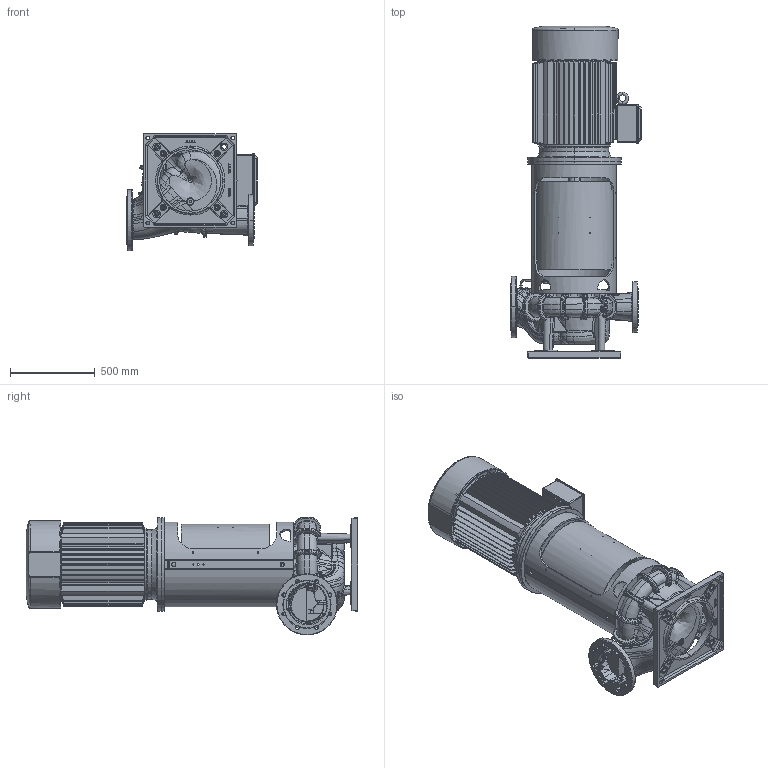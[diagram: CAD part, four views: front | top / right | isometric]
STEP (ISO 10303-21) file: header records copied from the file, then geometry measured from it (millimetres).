
FILE_DESCRIPTION((''),'2;1');
FILE_NAME('NSL150-330_14_MOTOR_250_ASM','2019-08-26T',('BRHE'),(''),'PRO/ENGINEER BY PARAMETRIC TECHNOLOGY CORPORATION, 2017170','PRO/ENGINEER BY PARAMETRIC TECHNOLOGY CORPORATION, 2017170','');
FILE_SCHEMA(('CONFIG_CONTROL_DESIGN'));
Products named in the file (6): NSL150-330_14_SW0002; 704391; 704263; 704275; PRT0038; NSL150-330_14_MOTOR_250_ASM
Assembly tree (5 placements, depth 2):
  NSL150-330_14_MOTOR_250_ASM
    NSL150-330_14_SW0002
    704391
    704263
    704275
    PRT0038
Bounding box: 770 x 1953.5 x 694.57 mm (x, y, z)
Volume: 192824822.9 mm3; surface area: 9337524 mm2
Topology: 5 solids, 6 shells, 4223 faces, 11189 edges, 7045 vertices
Faces by surface type: bspline 1374, plane 1314, cylinder 778, extrusion 451, cone 190, torus 94, sphere 22
Entity records: 296214 total; most frequent: CARTESIAN_POINT 203609, ORIENTED_EDGE 22274, DIRECTION 14349, EDGE_CURVE 11139, VERTEX_POINT 7045, B_SPLINE_CURVE_WITH_KNOTS 5069, AXIS2_PLACEMENT_3D 4966, EDGE_LOOP 4576
